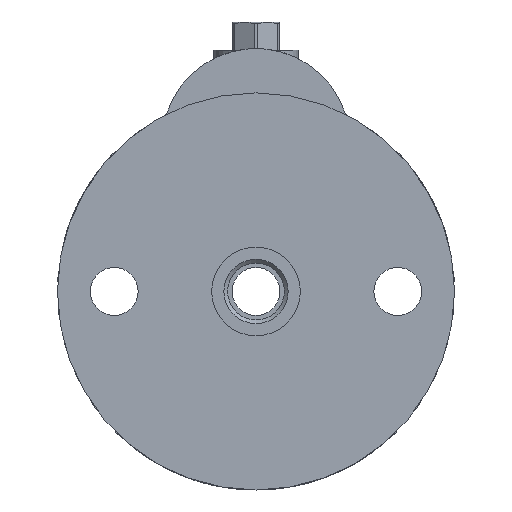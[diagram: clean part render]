
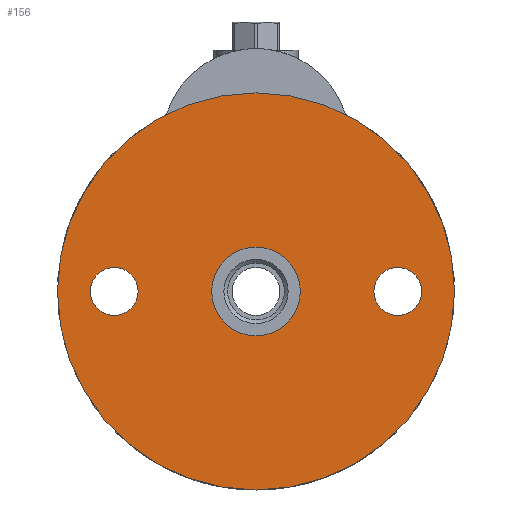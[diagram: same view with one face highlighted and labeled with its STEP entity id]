
A CAD part, front view. The second image highlights one B-rep face of the part: STEP entity #156.
In plain terms, the highlighted planar face has unit normal (0, -1, 0).
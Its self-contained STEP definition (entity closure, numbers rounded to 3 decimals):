
#156 = ADVANCED_FACE( '', ( #377, #378, #379, #380 ), #381, .T. );
#377 = FACE_OUTER_BOUND( '', #622, .T. );
#378 = FACE_BOUND( '', #623, .T. );
#379 = FACE_BOUND( '', #624, .T. );
#380 = FACE_BOUND( '', #625, .T. );
#381 = PLANE( '', #626 );
#622 = EDGE_LOOP( '', ( #1221 ) );
#623 = EDGE_LOOP( '', ( #1222 ) );
#624 = EDGE_LOOP( '', ( #1223 ) );
#625 = EDGE_LOOP( '', ( #1224 ) );
#626 = AXIS2_PLACEMENT_3D( '', #1225, #1226, #1227 );
#1221 = ORIENTED_EDGE( '', *, *, #1481, .T. );
#1222 = ORIENTED_EDGE( '', *, *, #1467, .T. );
#1223 = ORIENTED_EDGE( '', *, *, #1465, .F. );
#1224 = ORIENTED_EDGE( '', *, *, #1482, .F. );
#1225 = CARTESIAN_POINT( '', ( 12.5, 0., 0. ) );
#1226 = DIRECTION( '', ( 0., -1., 0. ) );
#1227 = DIRECTION( '', ( 0., 0., -1. ) );
#1465 = EDGE_CURVE( '', #1763, #1763, #1764, .T. );
#1467 = EDGE_CURVE( '', #1767, #1767, #1768, .F. );
#1481 = EDGE_CURVE( '', #1788, #1788, #1789, .T. );
#1482 = EDGE_CURVE( '', #1790, #1790, #1791, .T. );
#1763 = VERTEX_POINT( '', #2691 );
#1764 = CIRCLE( '', #2692, 6.75 );
#1767 = VERTEX_POINT( '', #2695 );
#1768 = CIRCLE( '', #2696, 6.75 );
#1788 = VERTEX_POINT( '', #2716 );
#1789 = CIRCLE( '', #2717, 56. );
#1790 = VERTEX_POINT( '', #2718 );
#1791 = CIRCLE( '', #2719, 12.5 );
#2691 = CARTESIAN_POINT( '', ( -40., 0., -6.75 ) );
#2692 = AXIS2_PLACEMENT_3D( '', #2975, #2976, #2977 );
#2695 = CARTESIAN_POINT( '', ( 40., 0., -6.75 ) );
#2696 = AXIS2_PLACEMENT_3D( '', #2981, #2982, #2983 );
#2716 = CARTESIAN_POINT( '', ( 0., 0., -56. ) );
#2717 = AXIS2_PLACEMENT_3D( '', #3023, #3024, #3025 );
#2718 = CARTESIAN_POINT( '', ( 0., 0., -12.5 ) );
#2719 = AXIS2_PLACEMENT_3D( '', #3026, #3027, #3028 );
#2975 = CARTESIAN_POINT( '', ( -40., 0., 0. ) );
#2976 = DIRECTION( '', ( 0., -1., 0. ) );
#2977 = DIRECTION( '', ( 0., 0., -1. ) );
#2981 = CARTESIAN_POINT( '', ( 40., 0., 0. ) );
#2982 = DIRECTION( '', ( 0., -1., 0. ) );
#2983 = DIRECTION( '', ( 0., 0., -1. ) );
#3023 = CARTESIAN_POINT( '', ( 0., 0., 0. ) );
#3024 = DIRECTION( '', ( 0., -1., 0. ) );
#3025 = DIRECTION( '', ( 0., 0., -1. ) );
#3026 = CARTESIAN_POINT( '', ( 0., 0., 0. ) );
#3027 = DIRECTION( '', ( 0., -1., 0. ) );
#3028 = DIRECTION( '', ( 0., 0., -1. ) );
